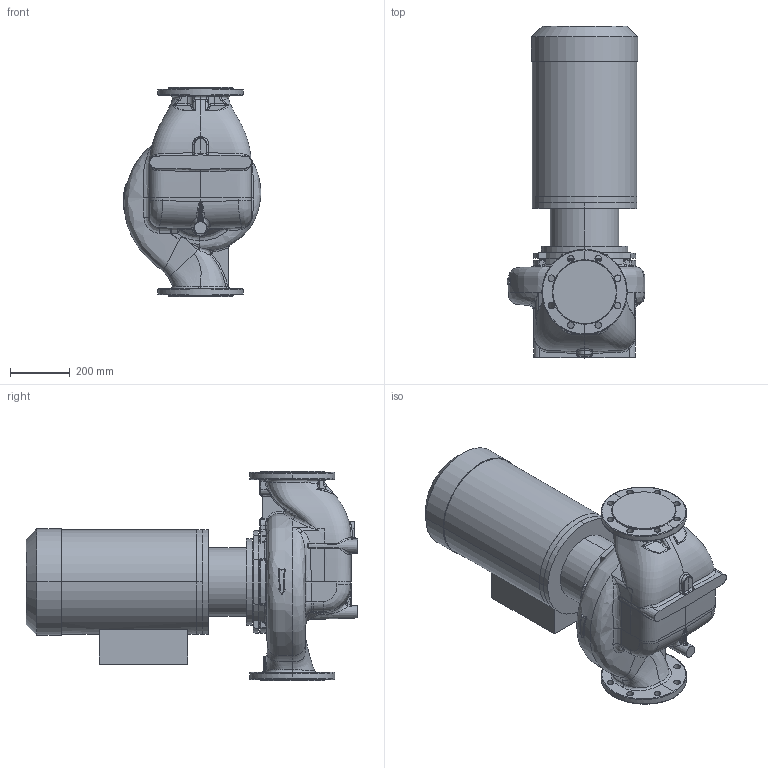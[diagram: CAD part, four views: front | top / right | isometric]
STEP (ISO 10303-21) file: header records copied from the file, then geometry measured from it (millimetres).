
FILE_DESCRIPTION (( 'STEP AP214' ), '1' );
FILE_NAME ('KRL 150-250-4-18,5.STEP', '2026-04-02T13:41:43', ( '' ), ( '' ), 'SwSTEP 2.0', 'SolidWorks 2016', '' );
FILE_SCHEMA (( 'AUTOMOTIVE_DESIGN' ));
Length unit declared in the file: millimetre
Products named in the file (1): KRL 150-250-4-18,5
Bounding box: 460.33 x 1109.8 x 700 mm (x, y, z)
Volume: 122072876.7 mm3; surface area: 2647287.8 mm2
Topology: 9 solids, 9 shells, 707 faces, 1732 edges, 1026 vertices
Faces by surface type: bspline 385, cylinder 136, plane 128, cone 42, torus 9, sphere 7
Entity records: 80328 total; most frequent: CARTESIAN_POINT 59397, ORIENTED_EDGE 3392, DIRECTION 1779, EDGE_CURVE 1696, VERTEX_POINT 1026, B_SPLINE_CURVE_WITH_KNOTS 808, EDGE_LOOP 758, AXIS2_PLACEMENT_3D 748
